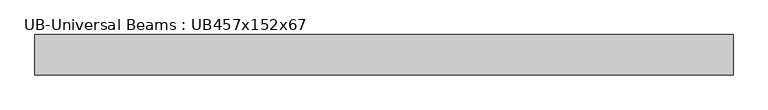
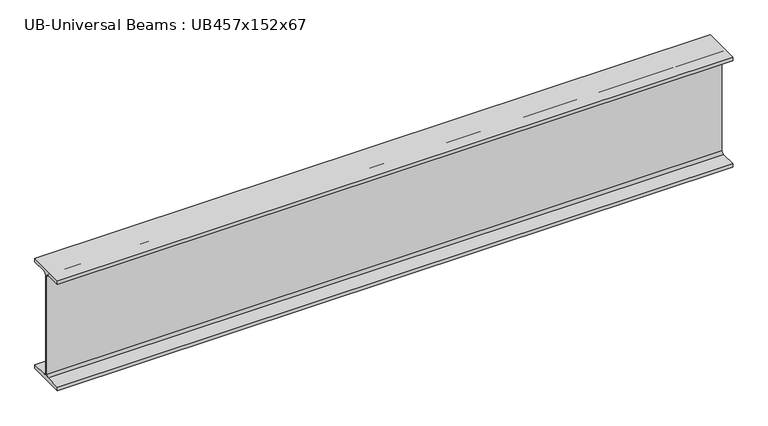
"""IFC4 building model written with IfcOpenShell, lengths in millimetres: beam geometry, UB-Universal Beams : UB457x152x67."""

import ifcopenshell
import ifcopenshell.guid

model = None  # the IFC model being written
_history = None  # IfcOwnerHistory: only IFC2X3 demands one
_inside = {}  # id of a spatial element -> (the spatial element, [elements in it])
_under = {}  # id of a project, library or spatial element -> (it, [spatial elements below it])
_declared = {}  # id of a project -> (the project, [libraries it declares])
_typed = {}  # id of a type object -> (the type object, [elements of that type])
_made_of = {}  # id of a material, layer set ... -> (it, [elements and type objects made of it])


def new_model(schema):
    """Start an empty IFC model of exactly this schema.

    Asked for "IFC4X3", IfcOpenShell would pick the latest addendum, in which some entities
    have other attributes; the version numbers below select the first issue.
    IFC2X3 requires an IfcOwnerHistory on every rooted entity: one is made here for all.
    """
    global model, _history
    if schema == "IFC4X3":
        model = ifcopenshell.file(schema_version=(4, 3, 0, 0))
    else:
        model = ifcopenshell.file(schema=schema)
    _inside.clear()
    _under.clear()
    _declared.clear()
    _typed.clear()
    _made_of.clear()
    _history = None
    if model.schema == "IFC2X3":
        org = make("IfcOrganization", Name="unknown")
        user = make(
            "IfcPersonAndOrganization",
            ThePerson=make("IfcPerson", FamilyName="unknown"),
            TheOrganization=org,
        )
        app = make(
            "IfcApplication",
            ApplicationDeveloper=org,
            Version="unknown",
            ApplicationFullName="unknown",
            ApplicationIdentifier="unknown",
        )
        _history = make(
            "IfcOwnerHistory",
            OwningUser=user,
            OwningApplication=app,
            ChangeAction="ADDED",
            CreationDate=0,
        )
    return model


def make(cls, **values):
    """One entity of the class cls with the attributes given. An attribute that is None is left unset."""
    return model.create_entity(
        cls, **{name: value for name, value in values.items() if value is not None}
    )


def rooted(cls, **values):
    """An entity with a GlobalId (a new one), such as an element, a storey or a relation."""
    return make(cls, GlobalId=ifcopenshell.guid.new(), OwnerHistory=_history, **values)


def si_unit(unit_type, name, prefix=None):
    """IfcSIUnit, for example si_unit("LENGTHUNIT", "METRE", prefix="MILLI")."""
    return make("IfcSIUnit", UnitType=unit_type, Prefix=prefix, Name=name)


def assignment(units):
    """IfcUnitAssignment: the units of a project."""
    return None if units is None else make("IfcUnitAssignment", Units=units)


def point(xyz):
    """IfcCartesianPoint."""
    return None if xyz is None else make("IfcCartesianPoint", Coordinates=xyz)


def direction(xyz):
    """IfcDirection."""
    return None if xyz is None else make("IfcDirection", DirectionRatios=xyz)


def frame(location, z_axis=None, x_axis=None):
    """IfcAxis2Placement3D, a coordinate frame: its origin and axes. An axis left out is left unset."""
    return make(
        "IfcAxis2Placement3D",
        Location=point(location),
        Axis=direction(z_axis),
        RefDirection=direction(x_axis),
    )


def frame_2d(location, x_axis=None):
    """IfcAxis2Placement2D, a coordinate frame in the plane: its origin and x axis."""
    return make(
        "IfcAxis2Placement2D", Location=point(location), RefDirection=direction(x_axis)
    )


def origin():
    """The frame at (0, 0, 0) with its axes left unset."""
    return frame((0.0, 0.0, 0.0))


def place(relative_to, where):
    """IfcLocalPlacement: puts the frame where relative to a parent placement (None: the world)."""
    return make(
        "IfcLocalPlacement", PlacementRelTo=relative_to, RelativePlacement=where
    )


def context(
    kind, dimensions, precision=None, world=None, true_north=None, identifier=None
):
    """IfcGeometricRepresentationContext, for example the 3D "Model" context."""
    return make(
        "IfcGeometricRepresentationContext",
        ContextIdentifier=identifier,
        ContextType=kind,
        CoordinateSpaceDimension=dimensions,
        Precision=precision,
        WorldCoordinateSystem=world,
        TrueNorth=true_north,
    )


def project(units=None, contexts=None):
    """IfcProject with its units and contexts."""
    return rooted(
        "IfcProject",
        Name="project",
        RepresentationContexts=contexts,
        UnitsInContext=assignment(units),
    )


def spatial(cls, under=None, at=None, **own):
    """A site, building, storey or space (cls), placed at a placement, below another one or the project."""
    s = rooted(cls, ObjectPlacement=at, **own)
    if under is not None:
        _under.setdefault(under.id(), (under, []))[1].append(s)
    return s


def polyline(points):
    """IfcPolyline through the points."""
    return make("IfcPolyline", Points=[point(p) for p in points])


def circle_curve(where, radius):
    """IfcCircle in the frame where."""
    return make("IfcCircle", Position=where, Radius=radius)


def trimmed(basis, trim1, trim2, sense, master):
    """IfcTrimmedCurve: the piece of a basis curve between two trims."""
    return make(
        "IfcTrimmedCurve",
        BasisCurve=basis,
        Trim1=trim1,
        Trim2=trim2,
        SenseAgreement=sense,
        MasterRepresentation=master,
    )


def segment(curve, same_sense, transition):
    """IfcCompositeCurveSegment."""
    return make(
        "IfcCompositeCurveSegment",
        Transition=transition,
        SameSense=same_sense,
        ParentCurve=curve,
    )


def composite_curve(segments, self_intersect=None):
    """IfcCompositeCurve: segments joined end to end."""
    return make("IfcCompositeCurve", Segments=segments, SelfIntersect=self_intersect)


def outline(outer, holes=None, kind="AREA"):
    """IfcArbitraryClosedProfileDef: a profile drawn as a closed curve; with holes, ...WithVoids."""
    if holes is None:
        return make("IfcArbitraryClosedProfileDef", ProfileType=kind, OuterCurve=outer)
    return make(
        "IfcArbitraryProfileDefWithVoids",
        ProfileType=kind,
        OuterCurve=outer,
        InnerCurves=holes,
    )


def extrude(swept, where, along, depth):
    """IfcExtrudedAreaSolid: the profile swept, set in the frame where, extruded along a direction by depth."""
    return make(
        "IfcExtrudedAreaSolid",
        SweptArea=swept,
        Position=where,
        ExtrudedDirection=direction(along),
        Depth=depth,
    )


def shape(context_of_items, identifier, shape_type, items):
    """IfcShapeRepresentation: the items that make up one representation, for example the "Body"."""
    return make(
        "IfcShapeRepresentation",
        ContextOfItems=context_of_items,
        RepresentationIdentifier=identifier,
        RepresentationType=shape_type,
        Items=items,
    )


def source(mapping_origin, context_of_items, identifier, shape_type, items):
    """IfcRepresentationMap: a shape defined once, which mapped items show again and again."""
    return make(
        "IfcRepresentationMap",
        MappingOrigin=mapping_origin,
        MappedRepresentation=shape(context_of_items, identifier, shape_type, items),
    )


def transform(
    local_origin,
    x_axis=None,
    y_axis=None,
    z_axis=None,
    scale=None,
    scale2=None,
    scale3=None,
    uniform=True,
):
    """IfcCartesianTransformationOperator3D, or its non-uniform kind. x_axis, y_axis, z_axis: its Axis1, 2, 3."""
    if uniform:
        return make(
            "IfcCartesianTransformationOperator3D",
            Axis1=direction(x_axis),
            Axis2=direction(y_axis),
            LocalOrigin=point(local_origin),
            Scale=scale,
            Axis3=direction(z_axis),
        )
    return make(
        "IfcCartesianTransformationOperator3DnonUniform",
        Axis1=direction(x_axis),
        Axis2=direction(y_axis),
        LocalOrigin=point(local_origin),
        Scale=scale,
        Axis3=direction(z_axis),
        Scale2=scale2,
        Scale3=scale3,
    )


def mapped(mapping_source, mapping_target):
    """IfcMappedItem: shows the shape of a source again, moved by a transform."""
    return make(
        "IfcMappedItem", MappingSource=mapping_source, MappingTarget=mapping_target
    )


def made_of(thing, what):
    """Note that an element or type object is made of a material, layer set ...; save() writes the relation."""
    if what is not None:
        _made_of.setdefault(what.id(), (what, []))[1].append(thing)
    return thing


def element(
    cls,
    number,
    at=None,
    inside=None,
    cuts=None,
    type_object=None,
    material=None,
    context=None,
    identifier="Body",
    shape_type=None,
    held_by="IfcProductDefinitionShape",
    body=None,
    shapes=None,
    **own,
):
    """One element of the class cls, such as IfcWall. Its Tag is "e" and its number.

    at: its placement. inside: the storey or other place that contains it. cuts: it is an
    opening in that element (IfcRelVoidsElement). A single representation is given by context,
    identifier, shape_type and body (its items); several are given by shapes. held_by: the class
    of the entity that holds the representations. save() writes the other relations.
    """
    e = rooted(cls, Tag="e%d" % number, ObjectPlacement=at, **own)
    if body is not None:
        shapes = [shape(context, identifier, shape_type, body)]
    if shapes is not None:
        e.Representation = make(held_by, Representations=shapes)
    if inside is not None:
        _inside.setdefault(inside.id(), (inside, []))[1].append(e)
    if cuts is not None:
        rooted(
            "IfcRelVoidsElement", RelatingBuildingElement=cuts, RelatedOpeningElement=e
        )
    if type_object is not None:
        _typed.setdefault(type_object.id(), (type_object, []))[1].append(e)
    return made_of(e, material)


def aggregate(whole, parts):
    """IfcRelAggregates: a whole, such as a stair, and the parts it consists of."""
    return rooted("IfcRelAggregates", RelatingObject=whole, RelatedObjects=parts)


def save(model, path):
    """Write the relations noted so far, then the file.

    IfcRelAggregates (storeys below a building ...), IfcRelContainedInSpatialStructure (elements
    in a storey), IfcRelDefinesByType, IfcRelAssociatesMaterial and IfcRelDeclares: one each for
    every whole, place, type object, material and project.
    """
    for whole, parts in _under.values():
        aggregate(whole, parts)
    for where, things in _inside.values():
        rooted(
            "IfcRelContainedInSpatialStructure",
            RelatedElements=things,
            RelatingStructure=where,
        )
    for kind, things in _typed.values():
        rooted("IfcRelDefinesByType", RelatedObjects=things, RelatingType=kind)
    for what, things in _made_of.values():
        rooted("IfcRelAssociatesMaterial", RelatedObjects=things, RelatingMaterial=what)
    for by, libraries in _declared.values():
        rooted("IfcRelDeclares", RelatingContext=by, RelatedDefinitions=libraries)
    model.write(path)


def ub_universal_beams_ub457x152x67_4370fdf8(model_context):
    return source(origin(), model_context, "Body", "SweptSolid", [
        extrude(outline(composite_curve([segment(polyline([(76.9, -214.0), (76.9, -229.0), (-76.9, -229.0), (-76.9, -214.0), (-14.7, -214.0)]), True, "CONTINUOUS"), segment(trimmed(circle_curve(frame_2d((-14.7, -203.8)), 10.2), [point((-14.7, -214.0))], [point((-4.5, -203.8))], True, "CARTESIAN"), True, "CONTINUOUS"), segment(polyline([(-4.5, -203.8), (-4.5, 203.8)]), True, "CONTINUOUS"), segment(trimmed(circle_curve(frame_2d((-14.7, 203.8)), 10.2), [point((-4.5, 203.8))], [point((-14.7, 214.0))], True, "CARTESIAN"), True, "CONTINUOUS"), segment(polyline([(-14.7, 214.0), (-76.9, 214.0), (-76.9, 229.0), (76.9, 229.0), (76.9, 214.0), (14.7, 214.0)]), True, "CONTINUOUS"), segment(trimmed(circle_curve(frame_2d((14.7, 203.8)), 10.2), [point((14.7, 214.0))], [point((4.5, 203.8))], True, "CARTESIAN"), True, "CONTINUOUS"), segment(polyline([(4.5, 203.8), (4.5, -203.8)]), True, "CONTINUOUS"), segment(trimmed(circle_curve(frame_2d((14.7, -203.8)), 10.2), [point((4.5, -203.8))], [point((14.7, -214.0))], True, "CARTESIAN"), True, "CONTINUOUS"), segment(polyline([(14.7, -214.0), (76.9, -214.0)]), True, "CONTINUOUS")], self_intersect=False)), frame((-1290.55, 0.0, 0.0), z_axis=(1.0, 0.0, 0.0), x_axis=(0.0, 1.0, 0.0)), (0.0, 0.0, 1.0), 2658.8),
    ])


if __name__ == "__main__":
    model = new_model("IFC4")
    model_context = context("Model", 3, world=origin())
    ifc_project = project(units=[si_unit("LENGTHUNIT", "METRE", prefix="MILLI")], contexts=[model_context])
    site = spatial("IfcSite", under=ifc_project)
    building = spatial("IfcBuilding", under=site)
    placement = place(None, origin())
    ub_universal_beams_ub457x152x67_shape = ub_universal_beams_ub457x152x67_4370fdf8(model_context)
    element("IfcBeam", 1, ObjectType="UB-Universal Beams : UB457x152x67", at=placement, inside=building, context=model_context, shape_type="MappedRepresentation", body=[
        mapped(ub_universal_beams_ub457x152x67_shape, transform((0.0, 0.0, 0.0), x_axis=(1.0, 0.0, 0.0), y_axis=(0.0, 1.0, 0.0), z_axis=(0.0, 0.0, 1.0))),
    ])
    save(model, "model.ifc")
